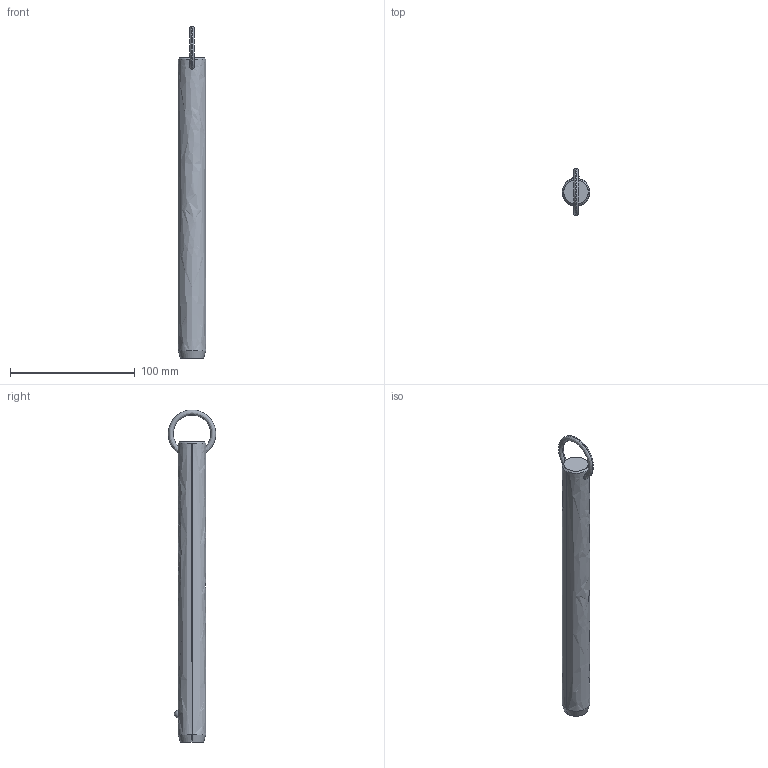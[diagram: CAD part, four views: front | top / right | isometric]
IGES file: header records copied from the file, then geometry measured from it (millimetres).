
Start section: SolidWorks IGES file using analytic representation for surfaces
Global section: file name: C:\Users\liam_\OneDrive\Documents\WORK\Work for WixRoyd\Job Files\J-00019 - Matt Davis CAD Checking\04. CAD Drawings\automotion20190605\P1250.2_v2\P1250.2_v2_20190729_IGES\P1250.087-800.igs; native system: SolidWorks 2017; preprocessor: SolidWorks 2017; author: liam_; date: 190730.173227; units: millimetre
Bounding box: 22.2 x 38.08 x 266.5 mm (x, y, z)
Surface area: 18458.9 mm2 (no closed solid volume)
Topology: 0 solids, 0 shells, 12 faces, 302 edges, 300 vertices
Faces by surface type: revolution 8, bspline 4
